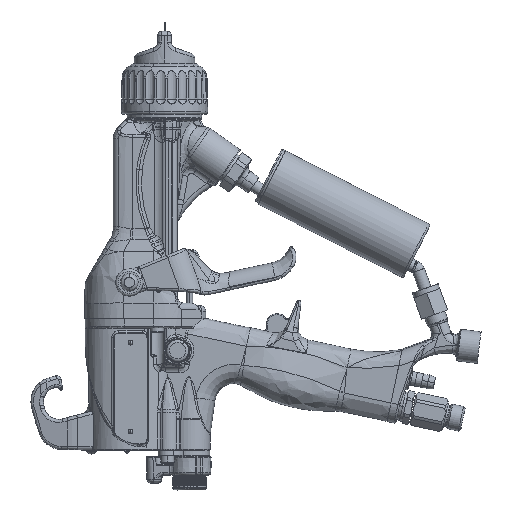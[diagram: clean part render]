
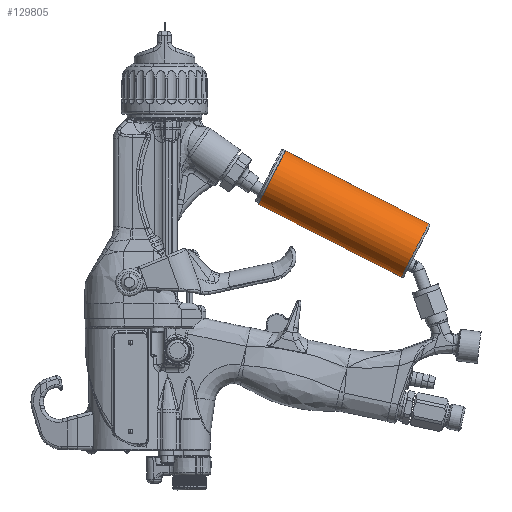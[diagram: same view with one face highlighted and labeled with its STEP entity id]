
A CAD part, left-side view. The second image highlights one B-rep face of the part: STEP entity #129805.
In plain terms, the highlighted cylindrical face has radius 15.494 mm (diameter 30.988 mm), a partial arc.
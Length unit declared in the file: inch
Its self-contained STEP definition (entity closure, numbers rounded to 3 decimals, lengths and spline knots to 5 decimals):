
#129708=CARTESIAN_POINT('',(0.,-5.11135,-3.41578));
#129709=DIRECTION('',(0.,-0.891,-0.454));
#129710=DIRECTION('',(0.,-0.454,0.891));
#129711=AXIS2_PLACEMENT_3D('',#129708,#129709,#129710);
#129713=DIRECTION('',(0.,-0.891,
-0.454));
#129714=VECTOR('',#129713,3.28);
#129715=CARTESIAN_POINT('',(0.,-1.91191,-2.4702));
#129716=LINE('',#129715,#129714);
#129717=CARTESIAN_POINT('',(0.,-2.18884,-1.92669));
#129718=DIRECTION('',(0.,-0.891,-0.454));
#129719=DIRECTION('',(0.,-0.454,0.891));
#129720=AXIS2_PLACEMENT_3D('',#129717,#129718,#129719);
#129722=DIRECTION('',(0.,-0.891,
-0.454));
#129723=VECTOR('',#129722,3.28);
#129724=CARTESIAN_POINT('',(0.,-2.46578,-1.38317));
#129725=LINE('',#129724,#129723);
#129726=CARTESIAN_POINT('',(0.,-2.46578,-1.38317));
#129727=CARTESIAN_POINT('',(0.,-1.91191,-2.4702));
#129728=VERTEX_POINT('',#129726);
#129729=VERTEX_POINT('',#129727);
#129734=CARTESIAN_POINT('',(0.,-4.83441,-3.95929));
#129735=CARTESIAN_POINT('',(0.,-5.38828,-2.87226));
#129736=VERTEX_POINT('',#129734);
#129737=VERTEX_POINT('',#129735);
#129793=CARTESIAN_POINT('',(0.,-5.29489,-3.5093));
#129794=DIRECTION('',(0.,0.891,0.454));
#129795=DIRECTION('',(0.,0.454,-0.891));
#129796=AXIS2_PLACEMENT_3D('',#129793,#129794,#129795);
#129797=CYLINDRICAL_SURFACE('',#129796,0.61);
#129798=ORIENTED_EDGE('',*,*,#129787,.T.);
#129799=ORIENTED_EDGE('',*,*,#129749,.F.);
#129801=ORIENTED_EDGE('',*,*,#129800,.F.);
#129802=ORIENTED_EDGE('',*,*,#129745,.T.);
#129803=EDGE_LOOP('',(#129798,#129799,#129801,#129802));
#129804=FACE_OUTER_BOUND('',#129803,.F.);
#129805=ADVANCED_FACE('',(#129804),#129797,.T.);
#129712=CIRCLE('',#129711,0.61);
#129721=CIRCLE('',#129720,0.61);
#129745=EDGE_CURVE('',#129728,#129737,#129725,.T.);
#129749=EDGE_CURVE('',#129729,#129736,#129716,.T.);
#129787=EDGE_CURVE('',#129737,#129736,#129712,.T.);
#129800=EDGE_CURVE('',#129728,#129729,#129721,.T.);
